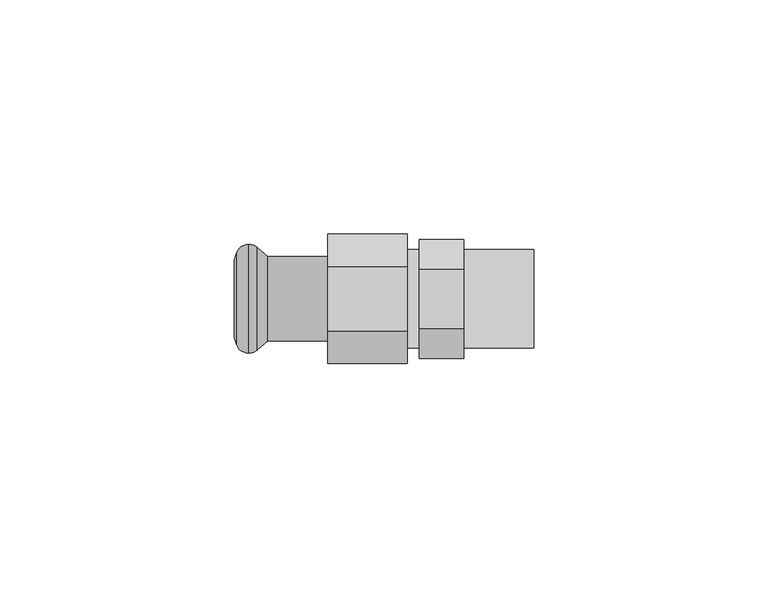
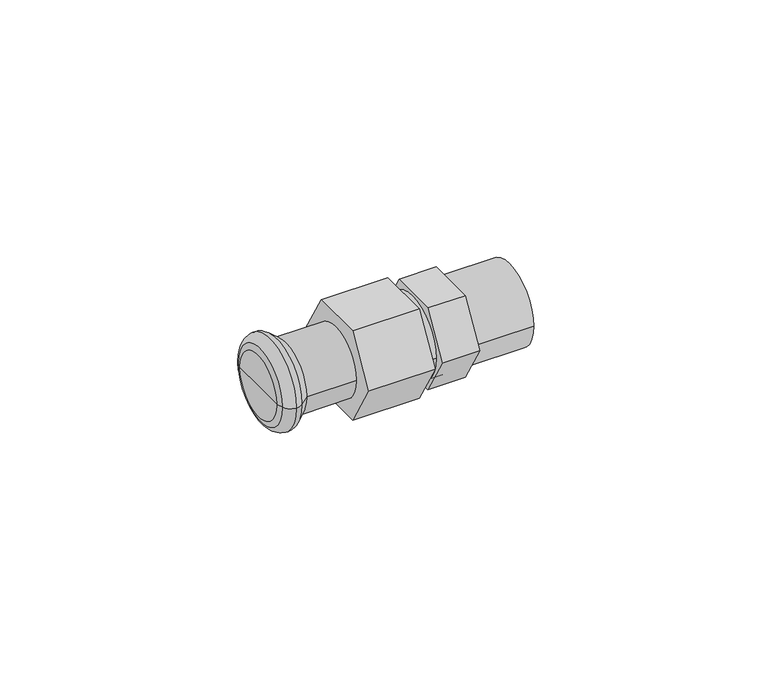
"""IFC4 building model written with IfcOpenShell, lengths in millimetres: pipe fitting geometry, KAN-therm Steel śrubunek GZ : KAN-therm Steel śrubunek GZ."""

from ifc_helpers import new_model, si_unit, point, frame, origin, origin_2d, place, context, project, spatial, polyline, circle_curve, ellipse_curve, trimmed, segment, composite_curve, outline, extrude, source, transform, mapped, element, save
from ifc_brep_helpers import plane_surface, cylinder_surface, revolved_surface, advanced_brep


def pipe_fitting_0c1b11cb(model_context):
    return source(origin(), model_context, "Body", "SolidModel", [
        extrude(outline(polyline([(-12.7017059, 0.0), (-6.350853, 11.0), (6.350853, 11.0), (12.7017059, 0.0), (6.350853, -11.0), (-6.350853, -11.0), (-12.7017059, 0.0)])), frame((19.5, 0.0, 0.0), z_axis=(1.0, 0.0, 0.0), x_axis=(0.0, 1.0, 0.0)), (0.0, 0.0, 1.0), 9.5),
        extrude(outline(composite_curve([segment(trimmed(circle_curve(origin_2d(), 10.5), [point((-10.5, 0.0))], [point((10.5, 0.0))], False, "CARTESIAN"), True, "CONTINUOUS"), segment(trimmed(circle_curve(origin_2d(), 10.5), [point((10.5, 0.0))], [point((-10.5, 0.0))], False, "CARTESIAN"), True, "CONTINUOUS")], self_intersect=False)), frame((17.0, 0.0, 0.0), z_axis=(1.0, 0.0, 0.0), x_axis=(0.0, 1.0, 0.0)), (0.0, 0.0, 1.0), 27.0),
        extrude(outline(polyline([(-13.8564065, 0.0), (-6.9282032, 12.0), (6.9282032, 12.0), (13.8564065, 0.0), (6.9282032, -12.0), (-6.9282032, -12.0), (-13.8564065, 0.0)])), frame((0.0, 0.0, 0.0), z_axis=(1.0, 0.0, 0.0), x_axis=(0.0, 1.0, 0.0)), (0.0, 0.0, 1.0), 17.0),
        advanced_brep(
        [(-12.7838092, -9.0, 0.0), (-12.7838092, 9.0, 0.0), (0.0, 9.0, 0.0), (0.0, -9.0, 0.0), (-15.0922627, -10.9370225, 0.0), (-15.0922627, 10.9370225, 0.0), (-16.8921278, -11.625, 0.0), (-16.8921278, 11.625, 0.0), (-19.432052, -9.8484544, 0.0), (-19.432052, 9.8484544, 0.0), (-20.0, -8.2880302, 0.0), (-20.0, 8.2880302, 0.0), (-20.0, 0.0, 0.0), (0.0, 0.0, 0.0)],
        [
            (0, 1, circle_curve(frame((-12.7838092, 0.0, 0.0), z_axis=(1.0, 0.0, 0.0), x_axis=(0.0, 1.0, 0.0)), 9.0)),
            (1, 2),
            (2, 3, circle_curve(frame((0.0, 0.0, 0.0), z_axis=(-1.0, 0.0, 0.0), x_axis=(0.0, 1.0, 0.0)), 9.0)),
            (3, 0),
            (1, 0, circle_curve(frame((-12.7838092, 0.0, 0.0), z_axis=(1.0, 0.0, 0.0), x_axis=(0.0, 1.0, 0.0)), 9.0)),
            (3, 2, circle_curve(frame((0.0, 0.0, 0.0), z_axis=(-1.0, 0.0, 0.0), x_axis=(0.0, 1.0, 0.0)), 9.0)),
            (4, 5, circle_curve(frame((-15.0922627, 0.0, 0.0), z_axis=(1.0, 0.0, 0.0), x_axis=(0.0, 1.0, 0.0)), 10.9370225)),
            (5, 1),
            (0, 4),
            (5, 4, circle_curve(frame((-15.0922627, 0.0, 0.0), z_axis=(1.0, 0.0, 0.0), x_axis=(0.0, 1.0, 0.0)), 10.9370225)),
            (6, 7, circle_curve(frame((-16.8921278, 0.0, 0.0), z_axis=(1.0, 0.0, 0.0), x_axis=(0.0, 1.0, 0.0)), 11.625)),
            (7, 5, circle_curve(frame((-16.8935049, 8.9230333, 0.0), z_axis=(0.0, 0.0, -1.0), x_axis=(1.0, 0.0, 0.0)), 2.701967)),
            (4, 6, circle_curve(frame((-16.8935049, -8.9230333, 0.0), z_axis=(0.0, 0.0, -1.0), x_axis=(1.0, 0.0, 0.0)), 2.701967)),
            (7, 6, circle_curve(frame((-16.8921278, 0.0, 0.0), z_axis=(1.0, 0.0, 0.0), x_axis=(0.0, 1.0, 0.0)), 11.625)),
            (8, 9, circle_curve(frame((-19.432052, 0.0, 0.0), z_axis=(1.0, 0.0, 0.0), x_axis=(0.0, 1.0, 0.0)), 9.8484544)),
            (9, 7, circle_curve(frame((-16.89488, 8.9249993, 0.0), z_axis=(0.0, 0.0, -1.0), x_axis=(1.0, 0.0, 0.0)), 2.7000021)),
            (6, 8, circle_curve(frame((-16.89488, -8.9249993, 0.0), z_axis=(0.0, 0.0, -1.0), x_axis=(1.0, 0.0, 0.0)), 2.7000021)),
            (9, 8, circle_curve(frame((-19.432052, 0.0, 0.0), z_axis=(1.0, 0.0, 0.0), x_axis=(0.0, 1.0, 0.0)), 9.8484544)),
            (10, 11, circle_curve(frame((-20.0, 0.0, 0.0), z_axis=(1.0, 0.0, 0.0), x_axis=(0.0, 1.0, 0.0)), 8.2880302)),
            (11, 9),
            (8, 10),
            (11, 10, circle_curve(frame((-20.0, 0.0, 0.0), z_axis=(1.0, 0.0, 0.0), x_axis=(0.0, 1.0, 0.0)), 8.2880302)),
            (12, 11),
            (10, 12),
            (2, 13),
            (13, 3),
        ],
        [
            cylinder_surface(frame((1357.742668, 0.0, 0.0), z_axis=(-1.0, 0.0, 0.0), x_axis=(0.0, 1.0, 0.0)), 9.0),
            revolved_surface(polyline([(-12.7838092, 9.0, 0.0), (-15.0922627, 10.9370225, 0.0)]), (1357.742668, 0.0, 0.0), (-1.0, 0.0, 0.0)),
            revolved_surface(trimmed(ellipse_curve(frame((-16.8935049, 8.9230333, 0.0), z_axis=(0.0, 0.0, 1.0), x_axis=(1.0, 0.0, 0.0)), 2.701967, 2.701967), [point((-15.0922627, 10.9370225, 0.0))], [point((-16.8921278, 11.625, 0.0))], True, "CARTESIAN"), (1357.742668, 0.0, 0.0), (-1.0, 0.0, 0.0)),
            revolved_surface(trimmed(ellipse_curve(frame((-16.89488, 8.9249993, 0.0), z_axis=(0.0, 0.0, 1.0), x_axis=(1.0, 0.0, 0.0)), 2.7000021, 2.7000021), [point((-16.8921278, 11.625, 0.0))], [point((-19.432052, 9.8484544, 0.0))], True, "CARTESIAN"), (1357.742668, 0.0, 0.0), (-1.0, 0.0, 0.0)),
            revolved_surface(polyline([(-19.432052, 9.8484544, 0.0), (-20.0, 8.2880302, 0.0)]), (1357.742668, 0.0, 0.0), (-1.0, 0.0, 0.0)),
            plane_surface(frame((-20.0, 0.0, 0.0), z_axis=(-1.0, 0.0, 0.0), x_axis=(0.0, 1.0, 0.0))),
            plane_surface(frame((0.0, 0.0, 0.0), z_axis=(1.0, 0.0, 0.0), x_axis=(0.0, 1.0, 0.0))),
        ],
        [
            (0, [[1, 2, 3, 4]]),
            (0, [[5, -4, 6, -2]]),
            (1, [[7, 8, -1, 9]]),
            (1, [[10, -9, -5, -8]]),
            (2, [[11, 12, -7, 13]]),
            (2, [[14, -13, -10, -12]]),
            (3, [[15, 16, -11, 17]]),
            (3, [[18, -17, -14, -16]]),
            (4, [[19, 20, -15, 21]]),
            (4, [[22, -21, -18, -20]]),
            (5, [[23, -19, 24]]),
            (5, [[-24, -22, -23]]),
            (6, [[-3, 25, 26]]),
            (6, [[-6, -26, -25]]),
        ],
    ),
    ])


if __name__ == "__main__":
    model = new_model("IFC4")
    model_context = context("Model", 3, world=origin())
    ifc_project = project(units=[si_unit("LENGTHUNIT", "METRE", prefix="MILLI")], contexts=[model_context])
    site = spatial("IfcSite", under=ifc_project)
    building = spatial("IfcBuilding", under=site)
    placement = place(None, origin())
    pipe_fitting_shape = pipe_fitting_0c1b11cb(model_context)
    element("IfcPipeFitting", 1, ObjectType="KAN-therm Steel śrubunek GZ : KAN-therm Steel śrubunek GZ", at=placement, inside=building, context=model_context, shape_type="MappedRepresentation", body=[
        mapped(pipe_fitting_shape, transform((0.0, 0.0, 0.0), x_axis=(1.0, 0.0, 0.0), y_axis=(0.0, 1.0, 0.0), z_axis=(0.0, 0.0, 1.0))),
    ])
    save(model, "model.ifc")
